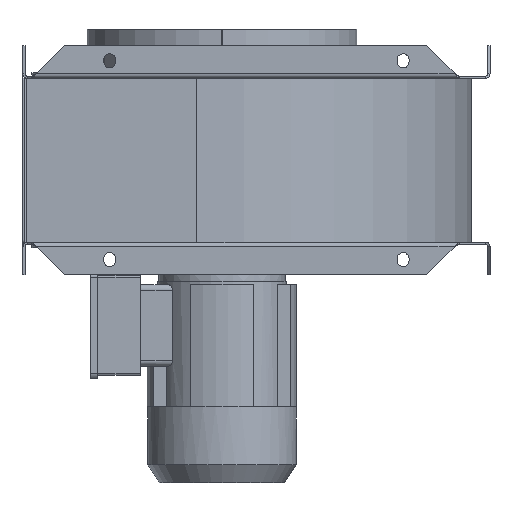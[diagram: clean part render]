
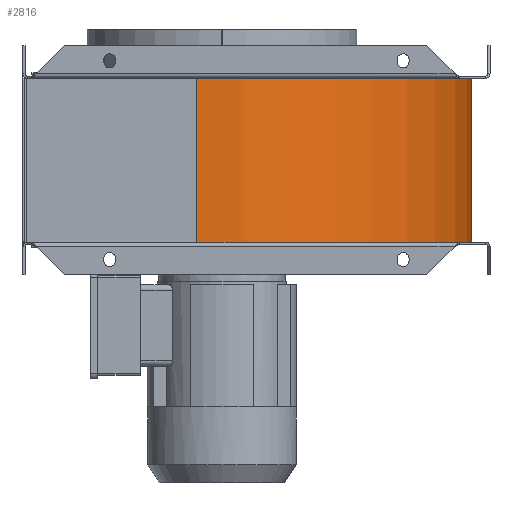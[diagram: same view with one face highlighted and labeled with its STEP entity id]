
A CAD part, front view. The second image highlights one B-rep face of the part: STEP entity #2816.
In plain terms, the highlighted cylindrical face has radius 253 mm (diameter 506 mm), a partial arc.
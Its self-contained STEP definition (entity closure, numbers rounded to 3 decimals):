
#359=DIRECTION('',(0.,0.,1.));
#360=VECTOR('',#359,151.);
#361=CARTESIAN_POINT('',(-23.4,-271.3,-75.5));
#362=LINE('',#361,#360);
#502=CARTESIAN_POINT('',(-23.4,-18.3,75.5));
#503=DIRECTION('',(0.,0.,-1.));
#504=DIRECTION('',(1.,0.,0.));
#505=AXIS2_PLACEMENT_3D('',#502,#503,#504);
#532=CARTESIAN_POINT('',(-23.4,-18.3,-75.5));
#533=DIRECTION('',(0.,0.,-1.));
#534=DIRECTION('',(1.,0.,0.));
#535=AXIS2_PLACEMENT_3D('',#532,#533,#534);
#540=DIRECTION('',(0.,0.,1.));
#541=VECTOR('',#540,151.);
#542=CARTESIAN_POINT('',(229.6,-18.305,-75.5));
#543=LINE('',#542,#541);
#1869=CARTESIAN_POINT('',(-23.4,-271.3,-75.5));
#1870=VERTEX_POINT('',#1869);
#1873=CARTESIAN_POINT('',(-23.4,-271.3,75.5));
#1874=VERTEX_POINT('',#1873);
#1881=CARTESIAN_POINT('',(229.6,-18.305,-75.5));
#1882=VERTEX_POINT('',#1881);
#1883=CARTESIAN_POINT('',(229.6,-18.305,75.5));
#1884=VERTEX_POINT('',#1883);
#2804=CARTESIAN_POINT('',(-23.4,-18.3,-75.5));
#2805=DIRECTION('',(0.,0.,1.));
#2806=DIRECTION('',(1.,0.,0.));
#2807=AXIS2_PLACEMENT_3D('',#2804,#2805,#2806);
#2808=CYLINDRICAL_SURFACE('',#2807,253.);
#2809=ORIENTED_EDGE('',*,*,#2785,.T.);
#2810=ORIENTED_EDGE('',*,*,#2524,.T.);
#2811=ORIENTED_EDGE('',*,*,#2734,.F.);
#2813=ORIENTED_EDGE('',*,*,#2812,.F.);
#2814=EDGE_LOOP('',(#2809,#2810,#2811,#2813));
#2815=FACE_OUTER_BOUND('',#2814,.F.);
#506=CIRCLE('',#505,253.);
#536=CIRCLE('',#535,253.);
#2524=EDGE_CURVE('',#1870,#1874,#362,.T.);
#2734=EDGE_CURVE('',#1884,#1874,#506,.T.);
#2785=EDGE_CURVE('',#1882,#1870,#536,.T.);
#2812=EDGE_CURVE('',#1882,#1884,#543,.T.);
#2816=ADVANCED_FACE('',(#2815),#2808,.T.);
